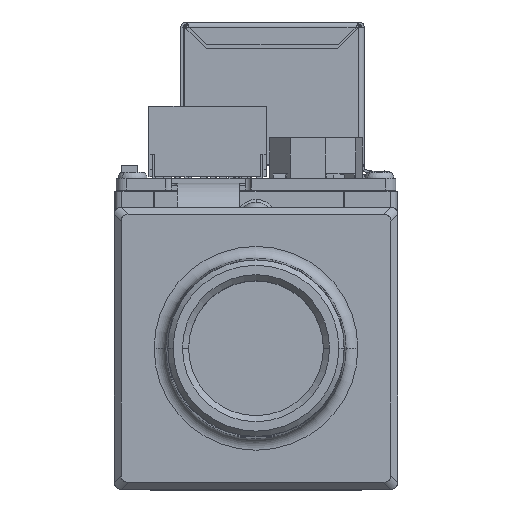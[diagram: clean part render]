
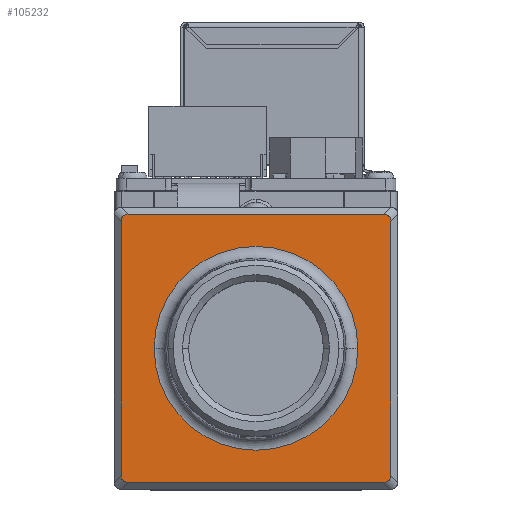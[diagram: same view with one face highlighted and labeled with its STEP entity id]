
A CAD part, top view. The second image highlights one B-rep face of the part: STEP entity #105232.
In plain terms, the highlighted planar face has unit normal (0, 0, 1).
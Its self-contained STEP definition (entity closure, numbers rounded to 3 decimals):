
#3251 = CARTESIAN_POINT ( 'NONE',  ( 10.874, 11.4, 8. ) ) ;
#3443 = AXIS2_PLACEMENT_3D ( 'NONE', #32746, #104161, #9391 ) ;
#4119 = VERTEX_POINT ( 'NONE', #74356 ) ;
#5227 = EDGE_CURVE ( 'NONE', #19773, #27828, #13419, .T. ) ;
#6747 = EDGE_LOOP ( 'NONE', ( #134508, #140205 ) ) ;
#9391 = DIRECTION ( 'NONE',  ( -1., 0., 0. ) ) ;
#10910 = FACE_OUTER_BOUND ( 'NONE', #136767, .T. ) ;
#12053 = CARTESIAN_POINT ( 'NONE',  ( 8.666, 0., 8. ) ) ;
#13419 = CIRCLE ( 'NONE', #3443, 8.666 ) ;
#15503 = LINE ( 'NONE', #151348, #91933 ) ;
#19306 = DIRECTION ( 'NONE',  ( 1., 0., 0. ) ) ;
#19773 = VERTEX_POINT ( 'NONE', #12053 ) ;
#19909 = ORIENTED_EDGE ( 'NONE', *, *, #147310, .T. ) ;
#20311 = CARTESIAN_POINT ( 'NONE',  ( 11.475, -10.794, 8. ) ) ;
#20774 = CARTESIAN_POINT ( 'NONE',  ( -11.475, -10.794, 8. ) ) ;
#22529 = EDGE_CURVE ( 'NONE', #70673, #58226, #81532, .T. ) ;
#22567 = DIRECTION ( 'NONE',  ( -1., 0., 0. ) ) ;
#27828 = VERTEX_POINT ( 'NONE', #139007 ) ;
#30027 = VERTEX_POINT ( 'NONE', #20774 ) ;
#31485 = ORIENTED_EDGE ( 'NONE', *, *, #146977, .T. ) ;
#32746 = CARTESIAN_POINT ( 'NONE',  ( 0., 0., 8. ) ) ;
#34992 = CARTESIAN_POINT ( 'NONE',  ( 0., 0., 8. ) ) ;
#42282 = CARTESIAN_POINT ( 'NONE',  ( -11.255, -11.4, 8. ) ) ;
#43387 = DIRECTION ( 'NONE',  ( -1., 0., 0. ) ) ;
#45144 = CARTESIAN_POINT ( 'NONE',  ( 11.255, 11.4, 8. ) ) ;
#46830 = CARTESIAN_POINT ( 'NONE',  ( -10.874, -11.4, 8. ) ) ;
#47365 = DIRECTION ( 'NONE',  ( -1., 0., 0. ) ) ;
#47898 = CIRCLE ( 'NONE', #100060, 8.666 ) ;
#48360 = CARTESIAN_POINT ( 'NONE',  ( 11.475, -11.178, 8. ) ) ;
#48869 = VERTEX_POINT ( 'NONE', #20311 ) ;
#49871 = CARTESIAN_POINT ( 'NONE',  ( -11.475, 10.794, 8. ) ) ;
#53177 = CARTESIAN_POINT ( 'NONE',  ( -11.475, -11.178, 8. ) ) ;
#56116 = VERTEX_POINT ( 'NONE', #49871 ) ;
#58226 = VERTEX_POINT ( 'NONE', #144439 ) ;
#59387 = EDGE_CURVE ( 'NONE', #27828, #19773, #47898, .T. ) ;
#64829 = CARTESIAN_POINT ( 'NONE',  ( -11.475, -10.794, 8. ) ) ;
#66650 = ORIENTED_EDGE ( 'NONE', *, *, #108440, .T. ) ;
#67364 = ORIENTED_EDGE ( 'NONE', *, *, #22529, .T. ) ;
#67469 = DIRECTION ( 'NONE',  ( 0., 0., -1. ) ) ;
#67735 = EDGE_CURVE ( 'NONE', #30027, #148324, #120903, .T. ) ;
#69969 = CARTESIAN_POINT ( 'NONE',  ( 10.874, 11.4, 8. ) ) ;
#70673 = VERTEX_POINT ( 'NONE', #3251 ) ;
#74356 = CARTESIAN_POINT ( 'NONE',  ( 11.475, 10.794, 8. ) ) ;
#74615 =( BOUNDED_CURVE ( )  B_SPLINE_CURVE ( 3, ( #80846, #104166, #45144, #69969 ),
 .UNSPECIFIED., .F., .F. ) 
 B_SPLINE_CURVE_WITH_KNOTS ( ( 4, 4 ),
 ( 5.749, 6.802 ),
 .UNSPECIFIED. ) 
 CURVE ( )  GEOMETRIC_REPRESENTATION_ITEM ( )  RATIONAL_B_SPLINE_CURVE ( ( 1., 0.91, 0.91, 1. ) ) 
 REPRESENTATION_ITEM ( '' )  );
#78467 = ORIENTED_EDGE ( 'NONE', *, *, #152494, .T. ) ;
#78973 = ORIENTED_EDGE ( 'NONE', *, *, #90273, .T. ) ;
#79339 = CARTESIAN_POINT ( 'NONE',  ( -10.874, 11.4, 8. ) ) ;
#80846 = CARTESIAN_POINT ( 'NONE',  ( 11.475, 10.794, 8. ) ) ;
#81532 = LINE ( 'NONE', #105606, #124660 ) ;
#81771 = CARTESIAN_POINT ( 'NONE',  ( 11.475, -10.794, 8. ) ) ;
#83858 = VECTOR ( 'NONE', #94338, 1000. ) ;
#90138 = LINE ( 'NONE', #137548, #115010 ) ;
#90273 = EDGE_CURVE ( 'NONE', #148324, #99750, #15503, .T. ) ;
#91933 = VECTOR ( 'NONE', #19306, 1000. ) ;
#92706 =( BOUNDED_CURVE ( )  B_SPLINE_CURVE ( 3, ( #129958, #95716, #48360, #81771 ),
 .UNSPECIFIED., .F., .T. ) 
 B_SPLINE_CURVE_WITH_KNOTS ( ( 4, 4 ),
 ( 5.765, 6.817 ),
 .UNSPECIFIED. ) 
 CURVE ( )  GEOMETRIC_REPRESENTATION_ITEM ( )  RATIONAL_B_SPLINE_CURVE ( ( 1., 0.91, 0.91, 1. ) ) 
 REPRESENTATION_ITEM ( '' )  );
#94338 = DIRECTION ( 'NONE',  ( 0., 1., 0. ) ) ;
#95716 = CARTESIAN_POINT ( 'NONE',  ( 11.255, -11.4, 8. ) ) ;
#97960 = AXIS2_PLACEMENT_3D ( 'NONE', #34992, #140641, #22567 ) ;
#99750 = VERTEX_POINT ( 'NONE', #125323 ) ;
#100060 = AXIS2_PLACEMENT_3D ( 'NONE', #149841, #67469, #43387 ) ;
#101905 = CARTESIAN_POINT ( 'NONE',  ( -11.475, 10.794, 8. ) ) ;
#102733 =( BOUNDED_CURVE ( )  B_SPLINE_CURVE ( 3, ( #79339, #113522, #126743, #101905 ),
 .UNSPECIFIED., .F., .F. ) 
 B_SPLINE_CURVE_WITH_KNOTS ( ( 4, 4 ),
 ( 2.623, 3.675 ),
 .UNSPECIFIED. ) 
 CURVE ( )  GEOMETRIC_REPRESENTATION_ITEM ( )  RATIONAL_B_SPLINE_CURVE ( ( 1., 0.91, 0.91, 1. ) ) 
 REPRESENTATION_ITEM ( '' )  );
#104161 = DIRECTION ( 'NONE',  ( 0., 0., -1. ) ) ;
#104166 = CARTESIAN_POINT ( 'NONE',  ( 11.475, 11.178, 8. ) ) ;
#105229 = LINE ( 'NONE', #150367, #83858 ) ;
#105232 = ADVANCED_FACE ( 'NONE', ( #141426, #10910 ), #107198, .F. ) ;
#105606 = CARTESIAN_POINT ( 'NONE',  ( 0., 11.4, 8. ) ) ;
#107198 = PLANE ( 'NONE',  #97960 ) ;
#108440 = EDGE_CURVE ( 'NONE', #4119, #70673, #74615, .T. ) ;
#113522 = CARTESIAN_POINT ( 'NONE',  ( -11.255, 11.4, 8. ) ) ;
#115010 = VECTOR ( 'NONE', #138277, 1000. ) ;
#120903 =( BOUNDED_CURVE ( )  B_SPLINE_CURVE ( 3, ( #64829, #53177, #42282, #152478 ),
 .UNSPECIFIED., .F., .F. ) 
 B_SPLINE_CURVE_WITH_KNOTS ( ( 4, 4 ),
 ( 2.608, 3.66 ),
 .UNSPECIFIED. ) 
 CURVE ( )  GEOMETRIC_REPRESENTATION_ITEM ( )  RATIONAL_B_SPLINE_CURVE ( ( 1., 0.91, 0.91, 1. ) ) 
 REPRESENTATION_ITEM ( '' )  );
#122684 = ORIENTED_EDGE ( 'NONE', *, *, #67735, .T. ) ;
#124660 = VECTOR ( 'NONE', #47365, 1000. ) ;
#125323 = CARTESIAN_POINT ( 'NONE',  ( 10.874, -11.4, 8. ) ) ;
#126743 = CARTESIAN_POINT ( 'NONE',  ( -11.475, 11.178, 8. ) ) ;
#129449 = EDGE_CURVE ( 'NONE', #48869, #4119, #105229, .T. ) ;
#129958 = CARTESIAN_POINT ( 'NONE',  ( 10.874, -11.4, 8. ) ) ;
#134508 = ORIENTED_EDGE ( 'NONE', *, *, #59387, .T. ) ;
#136767 = EDGE_LOOP ( 'NONE', ( #78973, #31485, #150306, #66650, #67364, #19909, #78467, #122684 ) ) ;
#137548 = CARTESIAN_POINT ( 'NONE',  ( -11.475, 0., 8. ) ) ;
#138277 = DIRECTION ( 'NONE',  ( 0., -1., 0. ) ) ;
#139007 = CARTESIAN_POINT ( 'NONE',  ( -8.666, 0., 8. ) ) ;
#140205 = ORIENTED_EDGE ( 'NONE', *, *, #5227, .T. ) ;
#140641 = DIRECTION ( 'NONE',  ( 0., 0., -1. ) ) ;
#141426 = FACE_BOUND ( 'NONE', #6747, .T. ) ;
#144439 = CARTESIAN_POINT ( 'NONE',  ( -10.874, 11.4, 8. ) ) ;
#146977 = EDGE_CURVE ( 'NONE', #99750, #48869, #92706, .T. ) ;
#147310 = EDGE_CURVE ( 'NONE', #58226, #56116, #102733, .T. ) ;
#148324 = VERTEX_POINT ( 'NONE', #46830 ) ;
#149841 = CARTESIAN_POINT ( 'NONE',  ( 0., 0., 8. ) ) ;
#150306 = ORIENTED_EDGE ( 'NONE', *, *, #129449, .T. ) ;
#150367 = CARTESIAN_POINT ( 'NONE',  ( 11.475, 0., 8. ) ) ;
#151348 = CARTESIAN_POINT ( 'NONE',  ( 0., -11.4, 8. ) ) ;
#152478 = CARTESIAN_POINT ( 'NONE',  ( -10.874, -11.4, 8. ) ) ;
#152494 = EDGE_CURVE ( 'NONE', #56116, #30027, #90138, .T. ) ;
